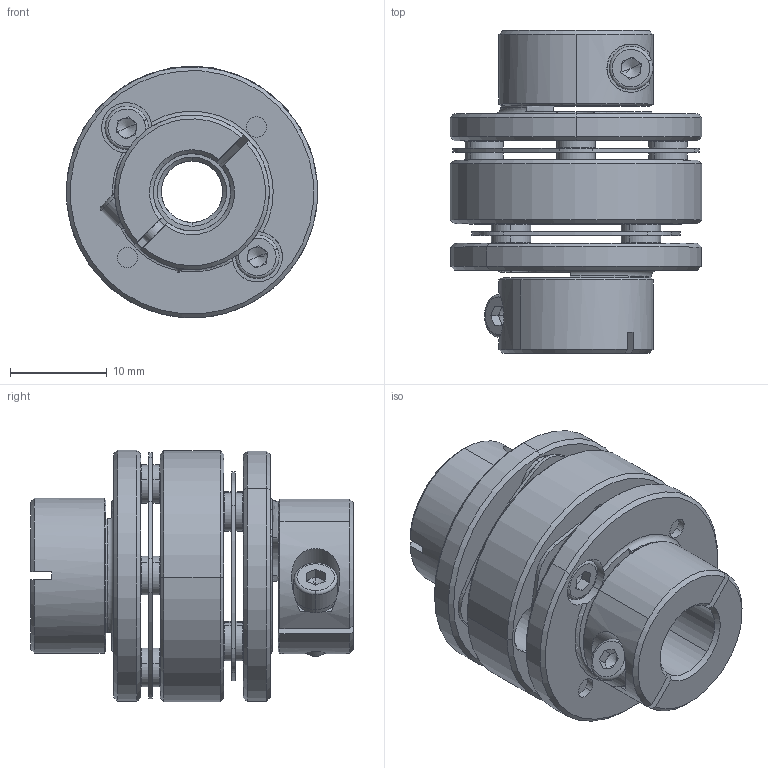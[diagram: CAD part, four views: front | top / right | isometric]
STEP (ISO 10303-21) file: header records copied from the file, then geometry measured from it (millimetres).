
FILE_DESCRIPTION (( 'STEP AP203' ), '1' );
FILE_NAME ('LE2-B-D26L35-6.35-8.STEP', '2021-11-01T05:48:30', ( '' ), ( '' ), 'SwSTEP 2.0', 'SolidWorks 2018', '' );
FILE_SCHEMA (( 'CONFIG_CONTROL_DESIGN' ));
Length unit declared in the file: millimetre
Products named in the file (1): LE2-B-D26L35-6.35-8
Bounding box: 26 x 33.4 x 26.06 mm (x, y, z)
Volume: 7592.5 mm3; surface area: 8322.5 mm2
Topology: 1 solids, 17 shells, 676 faces, 1573 edges, 945 vertices
Faces by surface type: cylinder 227, plane 220, cone 205, torus 24
Entity records: 19513 total; most frequent: DIRECTION 3652, CARTESIAN_POINT 3504, ORIENTED_EDGE 3106, EDGE_CURVE 1553, AXIS2_PLACEMENT_3D 1477, VERTEX_POINT 945, CIRCLE 800, EDGE_LOOP 784
